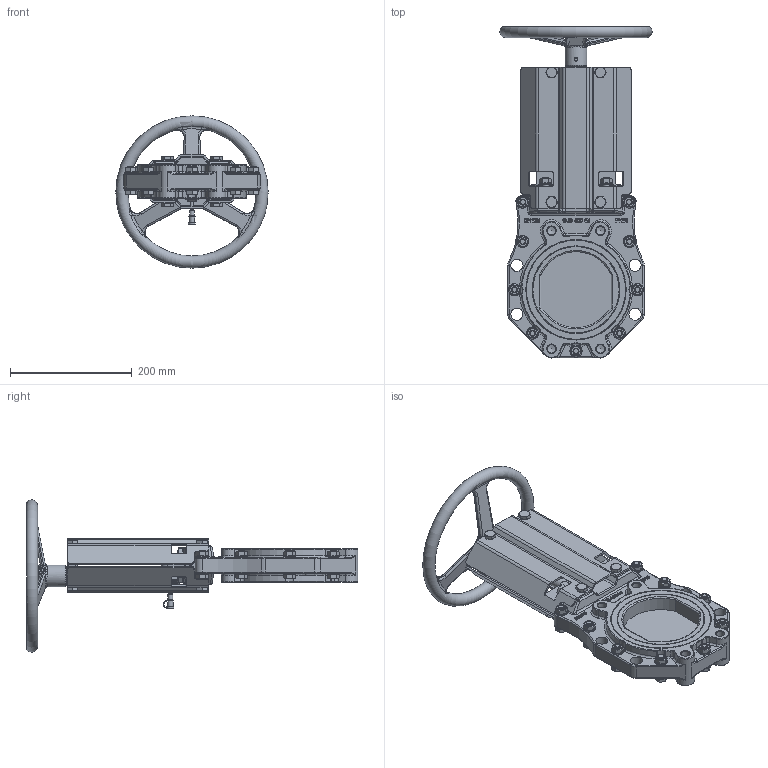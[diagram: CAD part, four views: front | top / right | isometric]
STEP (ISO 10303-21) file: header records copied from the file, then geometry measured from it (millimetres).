
FILE_DESCRIPTION(/* description */ (''),/* implementation_level */ '2;1');
FILE_NAME(/* name */ 'Non-rising stem knife gate valve with handwheel DN125.stp',/* time_stamp */ '2025-04-02T09:41:40+08:00',/* author */ (''),/* organization */ (''),/* preprocessor_version */ 'ST-DEVELOPER v15',/* originating_system */ 'SIEMENS PLM Software NX 10.0',/* authorisation */ '');
FILE_SCHEMA (('AP203_CONFIGURATION_CONTROLLED_3D_DESIGN_OF_MECHANICAL_PARTS_AND_ASSEMBLIES_MIM_LF { 1 0 10303 403 2 1 2}'));
Products named in the file (1): Admi271CEB492f0f
Bounding box: 249.97 x 545.01 x 249.97 mm (x, y, z)
Volume: 2652159.1 mm3; surface area: 532785 mm2
Topology: 1 solids, 21 shells, 2771 faces, 6779 edges, 4175 vertices
Faces by surface type: plane 1132, cylinder 584, bspline 381, extrusion 219, torus 207, cone 188, sphere 60
Full cylindrical faces by diameter (mm): 6 x3, 7.323 x2, 8 x3, 8.4 x2, 9 x1, 9.188 x9, 10 x26, 10.5 x22, 11.4 x2, 11.5 x1, 13.835 x8, 15.4 x17, 15.5 x1, 16 x4, 20 x27, 30 x3, 36 x1
Entity records: 87929 total; most frequent: CARTESIAN_POINT 27598, ORIENTED_EDGE 12906, DIRECTION 10915, EDGE_CURVE 6453, VERTEX_POINT 4106, AXIS2_PLACEMENT_3D 3912, EDGE_LOOP 3227, VECTOR 3091
